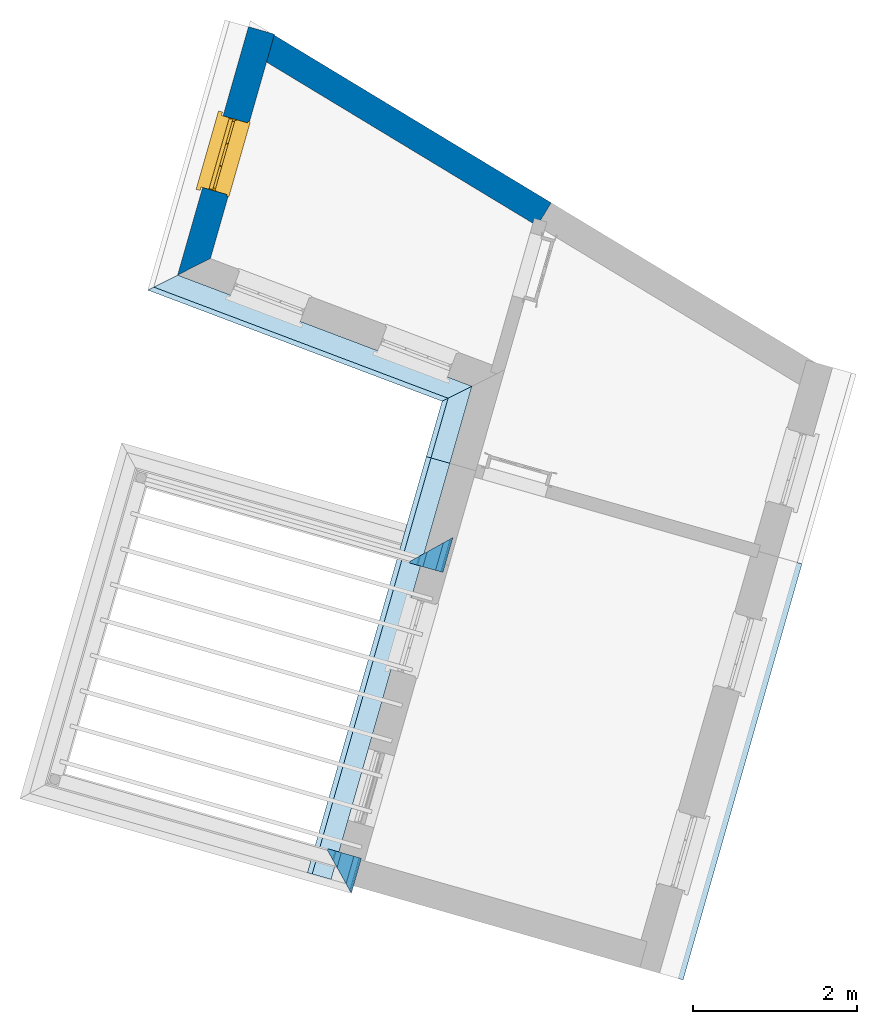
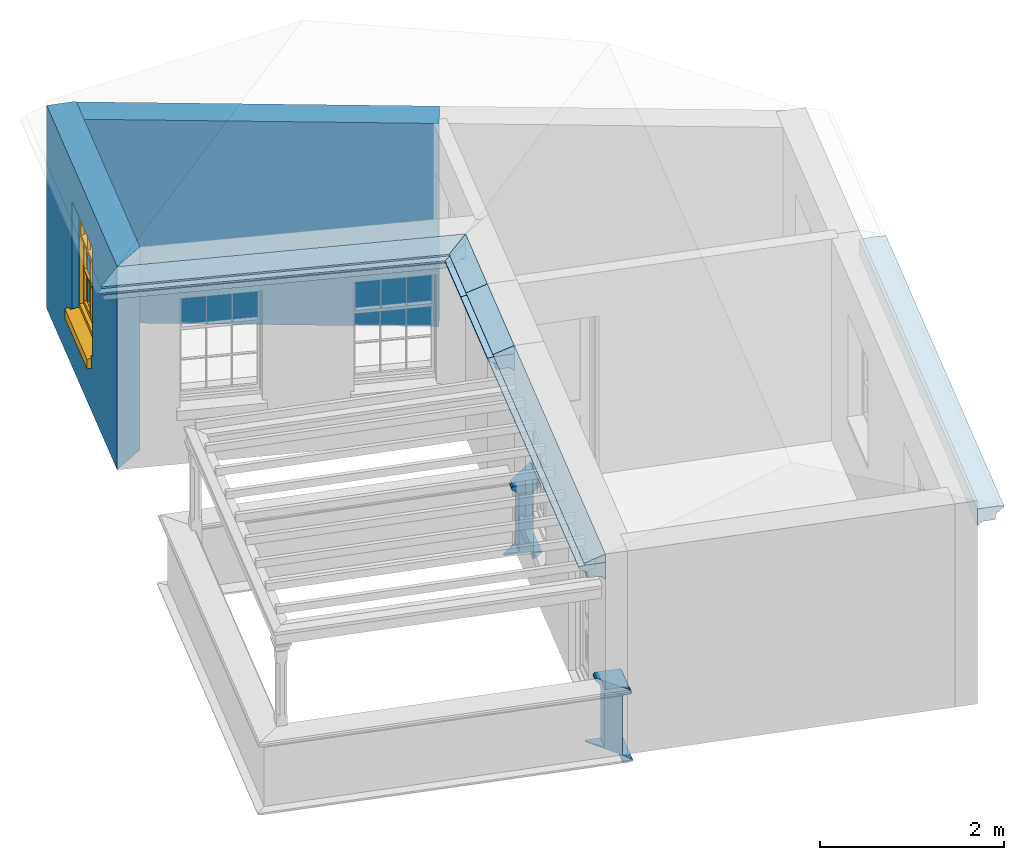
# One storey, part 4 of 5: 9 roofs, 8 walls, 1 window, 1 opening.
"""IFC4 building model written with IfcOpenShell, lengths in metres."""

import ifcopenshell
import ifcopenshell.guid

model = None  # the IFC model being written
_history = None  # IfcOwnerHistory: only IFC2X3 demands one
_inside = {}  # id of a spatial element -> (the spatial element, [elements in it])
_under = {}  # id of a project, library or spatial element -> (it, [spatial elements below it])
_declared = {}  # id of a project -> (the project, [libraries it declares])
_typed = {}  # id of a type object -> (the type object, [elements of that type])
_made_of = {}  # id of a material, layer set ... -> (it, [elements and type objects made of it])


def new_model(schema):
    """Start an empty IFC model of exactly this schema.

    Asked for "IFC4X3", IfcOpenShell would pick the latest addendum, in which some entities
    have other attributes; the version numbers below select the first issue.
    IFC2X3 requires an IfcOwnerHistory on every rooted entity: one is made here for all.
    """
    global model, _history
    if schema == "IFC4X3":
        model = ifcopenshell.file(schema_version=(4, 3, 0, 0))
    else:
        model = ifcopenshell.file(schema=schema)
    _inside.clear()
    _under.clear()
    _declared.clear()
    _typed.clear()
    _made_of.clear()
    _history = None
    if model.schema == "IFC2X3":
        org = make("IfcOrganization", Name="unknown")
        user = make(
            "IfcPersonAndOrganization",
            ThePerson=make("IfcPerson", FamilyName="unknown"),
            TheOrganization=org,
        )
        app = make(
            "IfcApplication",
            ApplicationDeveloper=org,
            Version="unknown",
            ApplicationFullName="unknown",
            ApplicationIdentifier="unknown",
        )
        _history = make(
            "IfcOwnerHistory",
            OwningUser=user,
            OwningApplication=app,
            ChangeAction="ADDED",
            CreationDate=0,
        )
    return model


def make(cls, **values):
    """One entity of the class cls with the attributes given. An attribute that is None is left unset."""
    return model.create_entity(
        cls, **{name: value for name, value in values.items() if value is not None}
    )


def rooted(cls, **values):
    """An entity with a GlobalId (a new one), such as an element, a storey or a relation."""
    return make(cls, GlobalId=ifcopenshell.guid.new(), OwnerHistory=_history, **values)


def si_unit(unit_type, name, prefix=None):
    """IfcSIUnit, for example si_unit("LENGTHUNIT", "METRE", prefix="MILLI")."""
    return make("IfcSIUnit", UnitType=unit_type, Prefix=prefix, Name=name)


def assignment(units):
    """IfcUnitAssignment: the units of a project."""
    return None if units is None else make("IfcUnitAssignment", Units=units)


def point(xyz):
    """IfcCartesianPoint."""
    return None if xyz is None else make("IfcCartesianPoint", Coordinates=xyz)


def direction(xyz):
    """IfcDirection."""
    return None if xyz is None else make("IfcDirection", DirectionRatios=xyz)


def frame(location, z_axis=None, x_axis=None):
    """IfcAxis2Placement3D, a coordinate frame: its origin and axes. An axis left out is left unset."""
    return make(
        "IfcAxis2Placement3D",
        Location=point(location),
        Axis=direction(z_axis),
        RefDirection=direction(x_axis),
    )


def origin():
    """The frame at (0, 0, 0) with its axes left unset."""
    return frame((0.0, 0.0, 0.0))


def origin_with_axes():
    """The frame at (0, 0, 0) with the z axis (0, 0, 1) and the x axis (1, 0, 0) written out."""
    return frame((0.0, 0.0, 0.0), z_axis=(0.0, 0.0, 1.0), x_axis=(1.0, 0.0, 0.0))


def place(relative_to, where):
    """IfcLocalPlacement: puts the frame where relative to a parent placement (None: the world)."""
    return make(
        "IfcLocalPlacement", PlacementRelTo=relative_to, RelativePlacement=where
    )


def context(
    kind, dimensions, precision=None, world=None, true_north=None, identifier=None
):
    """IfcGeometricRepresentationContext, for example the 3D "Model" context."""
    return make(
        "IfcGeometricRepresentationContext",
        ContextIdentifier=identifier,
        ContextType=kind,
        CoordinateSpaceDimension=dimensions,
        Precision=precision,
        WorldCoordinateSystem=world,
        TrueNorth=true_north,
    )


def subcontext(parent, identifier, kind, view, scale=None):
    """IfcGeometricRepresentationSubContext, for example "Body" below "Model"."""
    return make(
        "IfcGeometricRepresentationSubContext",
        ContextIdentifier=identifier,
        ContextType=kind,
        ParentContext=parent,
        TargetScale=scale,
        TargetView=view,
    )


def project(units=None, contexts=None):
    """IfcProject with its units and contexts."""
    return rooted(
        "IfcProject",
        Name="project",
        RepresentationContexts=contexts,
        UnitsInContext=assignment(units),
    )


def spatial(cls, under=None, at=None, **own):
    """A site, building, storey or space (cls), placed at a placement, below another one or the project."""
    s = rooted(cls, ObjectPlacement=at, **own)
    if under is not None:
        _under.setdefault(under.id(), (under, []))[1].append(s)
    return s


def polyline(points):
    """IfcPolyline through the points."""
    return make("IfcPolyline", Points=[point(p) for p in points])


def outline(outer, holes=None, kind="AREA"):
    """IfcArbitraryClosedProfileDef: a profile drawn as a closed curve; with holes, ...WithVoids."""
    if holes is None:
        return make("IfcArbitraryClosedProfileDef", ProfileType=kind, OuterCurve=outer)
    return make(
        "IfcArbitraryProfileDefWithVoids",
        ProfileType=kind,
        OuterCurve=outer,
        InnerCurves=holes,
    )


def extrude(swept, where, along, depth):
    """IfcExtrudedAreaSolid: the profile swept, set in the frame where, extruded along a direction by depth."""
    return make(
        "IfcExtrudedAreaSolid",
        SweptArea=swept,
        Position=where,
        ExtrudedDirection=direction(along),
        Depth=depth,
    )


def clip(a, b, op="DIFFERENCE"):
    """IfcBooleanClippingResult: the solid a cut by the half space b."""
    return make(
        "IfcBooleanClippingResult", Operator=op, FirstOperand=a, SecondOperand=b
    )


def halfspace(plane, agree):
    """IfcHalfSpaceSolid: all space on one side of the plane z = 0 of the frame plane."""
    return make(
        "IfcHalfSpaceSolid",
        BaseSurface=make("IfcPlane", Position=plane),
        AgreementFlag=agree,
    )


def faces_of(points, faces, orient=None, outer=None):
    """IfcFace entities. A face is a list of loops; a loop is a list of indices into points, from 0.

    orient and outer hold one flag for each loop. By default every Orientation is true, the
    first loop of a face is its IfcFaceOuterBound and the others are IfcFaceBound.
    """
    made = []
    for i, loops in enumerate(faces):
        bounds = []
        for j, loop in enumerate(loops):
            is_outer = j == 0 if outer is None else outer[i][j]
            bounds.append(
                make(
                    "IfcFaceOuterBound" if is_outer else "IfcFaceBound",
                    Bound=make("IfcPolyLoop", Polygon=[points[k] for k in loop]),
                    Orientation=True if orient is None else orient[i][j],
                )
            )
        made.append(make("IfcFace", Bounds=bounds))
    return made


def faceted_brep(points, faces, orient=None, outer=None, voids=None):
    """IfcFacetedBrep: a solid bounded by flat faces; with voids (closed shells), ...WithVoids."""
    shared = [point(p) for p in points]
    hull = make("IfcClosedShell", CfsFaces=faces_of(shared, faces, orient, outer))
    if voids is None:
        return make("IfcFacetedBrep", Outer=hull)
    return make(
        "IfcFacetedBrepWithVoids",
        Outer=hull,
        Voids=[
            make(cls, CfsFaces=faces_of(shared, fs, o, b)) for cls, fs, o, b in voids
        ],
    )


def shape(context_of_items, identifier, shape_type, items):
    """IfcShapeRepresentation: the items that make up one representation, for example the "Body"."""
    return make(
        "IfcShapeRepresentation",
        ContextOfItems=context_of_items,
        RepresentationIdentifier=identifier,
        RepresentationType=shape_type,
        Items=items,
    )


def source(mapping_origin, context_of_items, identifier, shape_type, items):
    """IfcRepresentationMap: a shape defined once, which mapped items show again and again."""
    return make(
        "IfcRepresentationMap",
        MappingOrigin=mapping_origin,
        MappedRepresentation=shape(context_of_items, identifier, shape_type, items),
    )


def transform(
    local_origin,
    x_axis=None,
    y_axis=None,
    z_axis=None,
    scale=None,
    scale2=None,
    scale3=None,
    uniform=True,
):
    """IfcCartesianTransformationOperator3D, or its non-uniform kind. x_axis, y_axis, z_axis: its Axis1, 2, 3."""
    if uniform:
        return make(
            "IfcCartesianTransformationOperator3D",
            Axis1=direction(x_axis),
            Axis2=direction(y_axis),
            LocalOrigin=point(local_origin),
            Scale=scale,
            Axis3=direction(z_axis),
        )
    return make(
        "IfcCartesianTransformationOperator3DnonUniform",
        Axis1=direction(x_axis),
        Axis2=direction(y_axis),
        LocalOrigin=point(local_origin),
        Scale=scale,
        Axis3=direction(z_axis),
        Scale2=scale2,
        Scale3=scale3,
    )


def mapped(mapping_source, mapping_target):
    """IfcMappedItem: shows the shape of a source again, moved by a transform."""
    return make(
        "IfcMappedItem", MappingSource=mapping_source, MappingTarget=mapping_target
    )


def material(Name=None, Category=None):
    """IfcMaterial."""
    return make("IfcMaterial", Name=Name, Category=Category)


def layer(
    of_material, thickness, ventilated=None, Name=None, Category=None, Priority=None
):
    """IfcMaterialLayer: one layer of a wall or slab, of a material (None: an air gap)."""
    return make(
        "IfcMaterialLayer",
        Material=of_material,
        LayerThickness=thickness,
        IsVentilated=ventilated,
        Name=Name,
        Category=Category,
        Priority=Priority,
    )


def layer_set(layers, Name=None):
    """IfcMaterialLayerSet."""
    return make("IfcMaterialLayerSet", MaterialLayers=layers, LayerSetName=Name)


def layer_usage(for_layer_set, set_direction, sense, offset, extent=None):
    """IfcMaterialLayerSetUsage: how a layer set lies in its element."""
    return make(
        "IfcMaterialLayerSetUsage",
        ForLayerSet=for_layer_set,
        LayerSetDirection=set_direction,
        DirectionSense=sense,
        OffsetFromReferenceLine=offset,
        ReferenceExtent=extent,
    )


def material_profile(
    of_material, cross_section, Name=None, Category=None, Priority=None
):
    """IfcMaterialProfile: a cross section and its material."""
    return make(
        "IfcMaterialProfile",
        Name=Name,
        Material=of_material,
        Profile=cross_section,
        Priority=Priority,
        Category=Category,
    )


def profile_set(profiles, Name=None, composite=None):
    """IfcMaterialProfileSet."""
    return make(
        "IfcMaterialProfileSet",
        Name=Name,
        MaterialProfiles=profiles,
        CompositeProfile=composite,
    )


def profile_usage(for_profile_set, cardinal=None, extent=None):
    """IfcMaterialProfileSetUsage: how a profile set lies along its element."""
    return make(
        "IfcMaterialProfileSetUsage",
        ForProfileSet=for_profile_set,
        CardinalPoint=cardinal,
        ReferenceExtent=extent,
    )


def made_of(thing, what):
    """Note that an element or type object is made of a material, layer set ...; save() writes the relation."""
    if what is not None:
        _made_of.setdefault(what.id(), (what, []))[1].append(thing)
    return thing


def type_object(cls, material=None, **own):
    """A type object (cls), such as IfcWallType, which elements share."""
    return made_of(rooted(cls, **own), material)


def type_shapes(of_type, sources):
    """Give a type object the sources (RepresentationMaps) that its elements show as mapped items."""
    of_type.RepresentationMaps = sources


def element(
    cls,
    number,
    at=None,
    inside=None,
    cuts=None,
    type_object=None,
    material=None,
    context=None,
    identifier="Body",
    shape_type=None,
    held_by="IfcProductDefinitionShape",
    body=None,
    shapes=None,
    **own,
):
    """One element of the class cls, such as IfcWall. Its Tag is "e" and its number.

    at: its placement. inside: the storey or other place that contains it. cuts: it is an
    opening in that element (IfcRelVoidsElement). A single representation is given by context,
    identifier, shape_type and body (its items); several are given by shapes. held_by: the class
    of the entity that holds the representations. save() writes the other relations.
    """
    e = rooted(cls, Tag="e%d" % number, ObjectPlacement=at, **own)
    if body is not None:
        shapes = [shape(context, identifier, shape_type, body)]
    if shapes is not None:
        e.Representation = make(held_by, Representations=shapes)
    if inside is not None:
        _inside.setdefault(inside.id(), (inside, []))[1].append(e)
    if cuts is not None:
        rooted(
            "IfcRelVoidsElement", RelatingBuildingElement=cuts, RelatedOpeningElement=e
        )
    if type_object is not None:
        _typed.setdefault(type_object.id(), (type_object, []))[1].append(e)
    return made_of(e, material)


def fill(opening, filler):
    """IfcRelFillsElement: the door or window that sits in an opening."""
    return rooted(
        "IfcRelFillsElement",
        RelatingOpeningElement=opening,
        RelatedBuildingElement=filler,
    )


def aggregate(whole, parts):
    """IfcRelAggregates: a whole, such as a stair, and the parts it consists of."""
    return rooted("IfcRelAggregates", RelatingObject=whole, RelatedObjects=parts)


def save(model, path):
    """Write the relations noted so far, then the file.

    IfcRelAggregates (storeys below a building ...), IfcRelContainedInSpatialStructure (elements
    in a storey), IfcRelDefinesByType, IfcRelAssociatesMaterial and IfcRelDeclares: one each for
    every whole, place, type object, material and project.
    """
    for whole, parts in _under.values():
        aggregate(whole, parts)
    for where, things in _inside.values():
        rooted(
            "IfcRelContainedInSpatialStructure",
            RelatedElements=things,
            RelatingStructure=where,
        )
    for kind, things in _typed.values():
        rooted("IfcRelDefinesByType", RelatedObjects=things, RelatingType=kind)
    for what, things in _made_of.values():
        rooted("IfcRelAssociatesMaterial", RelatedObjects=things, RelatingMaterial=what)
    for by, libraries in _declared.values():
        rooted("IfcRelDeclares", RelatingContext=by, RelatedDefinitions=libraries)
    model.write(path)


model = new_model("IFC4")

# Units and contexts
model_context = context("Model", 3, world=origin_with_axes())
body_context = subcontext(model_context, "Body", "Model", "MODEL_VIEW")
ifc_project = project(units=[si_unit("PLANEANGLEUNIT", "RADIAN"), si_unit("MASSUNIT", "GRAM", prefix="KILO"), si_unit("FORCEUNIT", "NEWTON", prefix="KILO"), si_unit("LENGTHUNIT", "METRE"), si_unit("AREAUNIT", "SQUARE_METRE"), si_unit("VOLUMEUNIT", "CUBIC_METRE")], contexts=[model_context, model_context])

# Sites, building, storey
site_1_placement = place(None, origin_with_axes())
site_1 = spatial("IfcSite", under=ifc_project, at=site_1_placement, Name="Tamar")
site_2_placement = place(site_1_placement, origin_with_axes())
site_2 = spatial("IfcSite", under=site_1, at=site_2_placement, Name="Site plot-19", CompositionType="ELEMENT")
building_placement = place(None, origin_with_axes())
building = spatial("IfcBuilding", under=site_2, at=building_placement, Name="Building plot-19", CompositionType="ELEMENT")
storey_placement = place(None, frame((0.0, 0.0, 30.4), z_axis=(0.0, 0.0, 1.0), x_axis=(1.0, 0.0, 0.0)))
storey = spatial("IfcBuildingStorey", under=building, at=storey_placement, Name="plot-19 1", CompositionType="ELEMENT", Elevation=30.4)

# Wall, opening, window
ifc_material_1 = material(Name="Masonry")
ifc_layer_1 = layer(ifc_material_1, 0.33, ventilated=False)
ifc_layer_set_1 = layer_set([ifc_layer_1], Name="exterior_0.08_0.25")
ifc_layer_usage_1 = layer_usage(ifc_layer_set_1, "AXIS2", "POSITIVE", -0.25)
wall_type_1 = type_object("IfcWallType", Name="exterior_0.08_0.25", PredefinedType="SOLIDWALL", material=ifc_layer_set_1)
wall_1_placement = place(storey_placement, frame((277.859330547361, 304.293593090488, 0.0), z_axis=(0.0, 0.0, 1.0), x_axis=(-0.274568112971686, -0.961567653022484, 0.0)))
wall_1 = element("IfcWall", 1, at=wall_1_placement, inside=storey, type_object=wall_type_1, material=ifc_layer_usage_1, Name="exterior", context=body_context, shape_type="SweptSolid", body=[
    extrude(outline(polyline([(-0.250000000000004, 0.0800000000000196), (-0.250000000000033, -0.249999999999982), (2.90406543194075, -0.250000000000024), (2.60035790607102, 0.080000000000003), (-0.250000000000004, 0.0800000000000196)])), origin_with_axes(), (0.0, 0.0, 1.0), 2.7),
])
opening_placement = place(wall_1_placement, frame((0.8819919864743, 0.0, 0.75)))
opening = element("IfcOpeningElement", 2, at=opening_placement, cuts=wall_1, Name="My Opening", ObjectType="Opening", context=body_context, shape_type="SweptSolid", body=[
    extrude(outline(polyline([(0.0, -0.269999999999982), (0.91000000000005, -0.269999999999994), (0.910000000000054, 1.09999999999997), (3.66373598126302e-15, 1.09999999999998), (0.0, -0.269999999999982)])), origin_with_axes(), (0.0, 0.0, 1.0), 1.445),
])
window_type = type_object("IfcWindowType", Name="sash_shorter", PartitioningType="DOUBLE_PANEL_HORIZONTAL", PredefinedType="NOTDEFINED")
shared_shape = source(origin(), body_context, "Body", "Brep", [
    faceted_brep([(0.876875, 0.145, 0.999097), (0.876875, 0.145, 1.411875), (0.9, 0.145, 1.435), (0.033125, 0.145, 1.411875), (0.033125, 0.145, 0.999097), (0.01, 0.145, 1.435), (0.033125, 0.115, 1.411875), (0.01, 0.115, 1.435), (0.033125, 0.115, 0.999097), (0.876875, 0.115, 1.411875), (0.876875, 0.115, 0.999097), (0.9, 0.115, 1.435), (0.033125, 0.145, 0.960972), (0.01, 0.145, 0.960972), (0.033125, 0.145, 0.548195), (0.876875, 0.145, 0.960972), (0.876875, 0.145, 0.548195), (0.9, 0.145, 0.960972), (0.876875, 0.145, 0.538195), (0.876875, 0.145, 0.125417), (0.9, 0.145, 0.077167), (0.033125, 0.145, 0.125417), (0.033125, 0.145, 0.538195), (0.01, 0.145, 0.077167), (0.9, 0.115, 0.960972), (0.01, 0.115, 0.960972), (-0.0425, 0.0, 0.01), (-0.0425, -0.05, 0.001667), (0.0, 0.0, 0.01), (0.9525, 0.0, 0.01), (0.91, 0.0, 0.01), (0.9525, -0.05, 0.001667), (-0.02, 0.33, 0.077167), (0.0, 0.33, 0.077167), (-0.02, 0.36, 0.077167), (0.0, 0.19, 0.077167), (0.01, 0.19, 0.077167), (0.91, 0.19, 0.077167), (0.91, 0.33, 0.077167), (0.9, 0.19, 0.077167), (0.93, 0.33, 0.077167), (0.93, 0.36, 0.077167), (0.01, 0.145, 0.999097), (0.01, 0.175, 0.999097), (0.9, 0.145, 0.999097), (0.9, 0.175, 0.999097), (0.876875, 0.175, 0.125417), (0.876875, 0.175, 0.538195), (0.9, 0.175, 0.077167), (0.876875, 0.175, 0.548195), (0.876875, 0.175, 0.960972), (0.033125, 0.175, 0.125417), (0.01, 0.175, 0.077167), (0.033125, 0.175, 0.538195), (0.033125, 0.175, 0.960972), (0.033125, 0.175, 0.548195), (-0.02, 0.33, 0.052167), (-0.02, 0.36, 0.052167), (0.93, 0.36, 0.052167), (0.93, 0.33, 0.052167), (0.91, 0.33, 0.052167), (0.0, 0.33, 0.052167), (0.91, 0.1, 0.026667), (0.0, 0.1, 0.026667), (-0.0425, -0.05, -0.123333), (0.9525, -0.05, -0.123333), (-0.0425, 0.0, -0.123333), (0.9525, 0.0, -0.123333), (0.01, 0.19, 1.435), (0.9, 0.19, 1.435), (0.0, 0.19, 1.445), (0.91, 0.19, 1.445), (0.01, 0.1, 0.077167), (0.9, 0.1, 0.077167), (0.592292, 0.145, 0.125417), (0.592292, 0.175, 0.125417), (0.317708, 0.175, 0.125417), (0.317708, 0.145, 0.125417), (0.592292, 0.145, 0.548195), (0.317708, 0.145, 0.548195), (0.317708, 0.145, 0.538195), (0.592292, 0.145, 0.538195), (0.592292, 0.175, 0.548195), (0.317708, 0.175, 0.548195), (0.602292, 0.175, 0.548195), (0.602292, 0.145, 0.548195), (0.317708, 0.175, 0.538195), (0.307708, 0.175, 0.125417), (0.307708, 0.175, 0.538195), (0.602292, 0.175, 0.538195), (0.602292, 0.175, 0.125417), (0.592292, 0.175, 0.538195), (0.307708, 0.175, 0.548195), (0.317708, 0.175, 0.960972), (0.307708, 0.175, 0.960972), (0.602292, 0.175, 0.960972), (0.592292, 0.175, 0.960972), (0.307708, 0.145, 0.538195), (0.307708, 0.145, 0.125417), (0.307708, 0.145, 0.548195), (0.307708, 0.145, 0.960972), (0.592292, 0.145, 0.960972), (0.317708, 0.145, 0.960972), (0.602292, 0.145, 0.960972), (0.602292, 0.145, 0.538195), (0.602292, 0.145, 0.125417), (0.317708, 0.115, 1.411875), (0.307708, 0.115, 1.411875), (0.307708, 0.115, 0.999097), (0.317708, 0.115, 0.999097), (0.602292, 0.115, 1.411875), (0.592292, 0.115, 1.411875), (0.592292, 0.115, 0.999097), (0.602292, 0.115, 0.999097), (0.317708, 0.145, 0.999097), (0.307708, 0.145, 0.999097), (0.307708, 0.145, 1.411875), (0.317708, 0.145, 1.411875), (0.602292, 0.145, 0.999097), (0.592292, 0.145, 0.999097), (0.592292, 0.145, 1.411875), (0.602292, 0.145, 1.411875), (0.91, 0.1, 1.445), (0.9, 0.1, 1.435), (0.01, 0.1, 1.435), (0.0, 0.1, 1.445), (0.91, 0.0, 0.0), (0.0, 0.0, 0.0), (0.91, 0.33, 0.0), (0.0, 0.33, 0.0)], [[[0, 1, 2]], [[3, 4, 5]], [[6, 7, 8]], [[9, 10, 11]], [[12, 13, 14]], [[15, 16, 17]], [[18, 19, 20]], [[21, 22, 23]], [[24, 15, 17]], [[13, 12, 25]], [[26, 27, 28]], [[29, 30, 31]], [[32, 33, 34]], [[35, 36, 33]], [[37, 38, 39]], [[40, 41, 38]], [[42, 4, 43]], [[44, 45, 0]], [[46, 47, 48]], [[49, 50, 45]], [[51, 52, 53]], [[54, 55, 43]], [[38, 33, 36, 39]], [[41, 34, 33, 38]], [[56, 32, 34, 57]], [[57, 34, 41, 58]], [[58, 41, 40, 59]], [[57, 58, 60, 61]], [[52, 48, 39, 36]], [[62, 63, 28, 30]], [[27, 31, 30, 28]], [[27, 64, 65, 31]], [[66, 67, 65, 64]], [[2, 5, 68, 69]], [[68, 70, 71, 69]], [[20, 23, 72, 73]], [[73, 72, 63, 62]], [[74, 75, 76, 77]], [[78, 79, 80, 81]], [[78, 82, 83, 79]], [[16, 49, 84, 85]], [[86, 76, 87, 88]], [[89, 90, 75, 91]], [[92, 88, 53, 55]], [[82, 91, 86, 83]], [[93, 83, 92, 94]], [[95, 84, 82, 96]], [[89, 84, 49, 47]], [[97, 88, 87, 98]], [[22, 53, 88, 97]], [[81, 91, 75, 74]], [[80, 86, 91, 81]], [[77, 76, 86, 80]], [[99, 92, 55, 14]], [[100, 94, 92, 99]], [[101, 96, 82, 78]], [[79, 83, 93, 102]], [[85, 84, 95, 103]], [[104, 89, 47, 18]], [[105, 90, 89, 104]], [[104, 18, 16, 85]], [[80, 97, 98, 77]], [[104, 81, 74, 105]], [[103, 101, 78, 85]], [[99, 14, 22, 97]], [[102, 100, 99, 79]], [[106, 107, 108, 109]], [[110, 111, 112, 113]], [[114, 115, 116, 117]], [[118, 119, 120, 121]], [[107, 116, 115, 108]], [[111, 120, 119, 112]], [[109, 114, 117, 106]], [[113, 118, 121, 110]], [[85, 78, 81, 104]], [[84, 89, 91, 82]], [[83, 86, 88, 92]], [[79, 99, 97, 80]], [[109, 112, 119, 114]], [[102, 93, 96, 101]], [[106, 117, 120, 111]], [[98, 87, 51, 21]], [[6, 3, 116, 107]], [[110, 121, 1, 9]], [[19, 46, 90, 105]], [[26, 66, 64, 27]], [[29, 31, 65, 67]], [[25, 24, 112, 109]], [[11, 7, 106, 111]], [[75, 48, 52, 76]], [[43, 45, 96, 93]], [[45, 43, 114, 119]], [[5, 2, 120, 117]], [[24, 25, 102, 101]], [[42, 5, 4]], [[2, 44, 0]], [[49, 45, 48, 47]], [[52, 43, 55, 53]], [[14, 13, 23, 22]], [[20, 17, 16, 18]], [[24, 11, 10]], [[25, 8, 7]], [[8, 4, 3, 6]], [[9, 1, 0, 10]], [[15, 50, 49, 16]], [[18, 47, 46, 19]], [[21, 51, 53, 22]], [[14, 55, 54, 12]], [[44, 2, 69, 45]], [[68, 5, 42, 43]], [[36, 35, 70, 68]], [[39, 69, 71, 37]], [[62, 122, 123, 73]], [[63, 72, 124, 125]], [[8, 108, 115, 4]], [[113, 10, 0, 118]], [[94, 100, 12, 54]], [[17, 20, 73, 24]], [[72, 23, 13, 25]], [[52, 36, 68, 43]], [[69, 39, 48, 45]], [[11, 24, 73, 123]], [[7, 124, 72, 25]], [[23, 77, 98]], [[98, 21, 23]], [[105, 74, 20]], [[20, 19, 105]], [[20, 74, 77, 23]], [[113, 112, 24]], [[24, 10, 113]], [[25, 109, 108]], [[108, 8, 25]], [[110, 9, 11]], [[11, 111, 110]], [[7, 6, 107]], [[107, 106, 7]], [[5, 117, 116]], [[116, 3, 5]], [[121, 120, 2]], [[2, 1, 121]], [[11, 123, 124, 7]], [[122, 125, 124, 123]], [[43, 93, 94]], [[94, 54, 43]], [[96, 45, 95]], [[50, 95, 45]], [[15, 103, 95, 50]], [[48, 75, 90]], [[90, 46, 48]], [[87, 76, 52]], [[52, 51, 87]], [[103, 15, 24]], [[24, 101, 103]], [[100, 102, 25]], [[25, 12, 100]], [[115, 114, 43]], [[43, 4, 115]], [[118, 0, 45]], [[45, 119, 118]], [[71, 70, 125, 122]], [[70, 35, 63, 125]], [[122, 62, 37, 71]], [[126, 67, 66, 127]], [[60, 58, 59]], [[38, 60, 59, 40]], [[61, 56, 57]], [[32, 56, 61, 33]], [[61, 60, 128, 129]], [[62, 60, 38, 37]], [[126, 128, 60, 62]], [[33, 61, 63, 35]], [[61, 129, 127, 63]], [[128, 126, 127, 129]], [[28, 127, 66, 26]], [[63, 127, 28]], [[29, 67, 126, 30]], [[30, 126, 62]]]),
])
type_shapes(window_type, [shared_shape])
window_placement = place(storey_placement, frame((277.357540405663, 303.519631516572, 0.75), z_axis=(0.0, 0.0, 1.0), x_axis=(-0.24985698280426, -0.875026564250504, 0.0)))
window = element("IfcWindow", 3, at=window_placement, inside=storey, type_object=window_type, Name="bedroom outside window", OverallHeight=1.445, OverallWidth=0.91, context=body_context, shape_type="MappedRepresentation", body=[
    mapped(shared_shape, transform((0.0, 0.0, 0.0), scale=1.0)),
])
fill(opening, window)

# Walls
ifc_material_2 = material(Name="Masonry")
ifc_layer_2 = layer(ifc_material_2, 0.33, ventilated=False)
ifc_layer_set_2 = layer_set([ifc_layer_2], Name="party_0.08_0.25")
ifc_layer_usage_2 = layer_usage(ifc_layer_set_2, "AXIS2", "POSITIVE", -0.25)
wall_type_2 = type_object("IfcWallType", Name="party_0.08_0.25", PredefinedType="SOLIDWALL", material=ifc_layer_set_2)
wall_2_placement = place(storey_placement, frame((281.254501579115, 302.239224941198, 0.0), z_axis=(0.0, 0.0, 1.0), x_axis=(-0.855567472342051, 0.517691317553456, 0.0)))
element("IfcWall", 4, at=wall_2_placement, inside=storey, type_object=wall_type_2, material=ifc_layer_usage_2, Name="party", context=body_context, shape_type="SweptSolid", body=[
    extrude(outline(polyline([(-5.71497043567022e-15, 0.0799999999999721), (-9.92118798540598e-15, -0.250000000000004), (3.96832645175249, -0.250000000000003), (3.9683264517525, 0.0799999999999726), (-5.71497043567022e-15, 0.0799999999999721)])), origin_with_axes(), (0.0, 0.0, 1.0), 2.7),
])
ifc_material_profile_1 = material_profile(None, outline(polyline([(0.25, 0.0), (0.25, 0.795), (0.09, 0.795), (0.09, 0.02), (-0.08, 0.02), (-0.08, 0.0), (0.25, 0.0)])))
ifc_profile_set_1 = profile_set([ifc_material_profile_1])
ifc_profile_usage_1 = profile_usage(ifc_profile_set_1)
wall_type_3 = type_object("IfcWallType", Name="parapet_0", PredefinedType="PARAPET", material=ifc_profile_set_1)
wall_3_placement = place(storey_placement, frame((280.033066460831, 299.090671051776, 0.0), z_axis=(-0.274568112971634, -0.961567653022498, 0.0), x_axis=(0.961567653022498, -0.274568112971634, 0.0)))
element("IfcWall", 5, at=wall_3_placement, inside=storey, type_object=wall_type_3, material=ifc_profile_usage_1, Name="parapet_0", context=body_context, shape_type="Clipping", body=[
    clip(clip(extrude(outline(polyline([(0.25, 0.0), (0.25, 0.795), (0.09, 0.795), (0.09, 0.02), (-0.08, 0.02), (-0.08, 0.0), (0.25, 0.0)])), origin_with_axes(), (0.0, 0.0, 1.0), 2.09999999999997), halfspace(frame((0.0, 0.0, 1.09999999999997), z_axis=(-7.83279351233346e-15, 0.0, -1.0), x_axis=(0.0, 1.0, 0.0)), True)), halfspace(frame((0.0, 0.0, 1.0), z_axis=(-0.707106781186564, 0.0, -0.707106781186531), x_axis=(0.0, 1.0, 0.0)), False)),
])
ifc_profile_usage_2 = profile_usage(ifc_profile_set_1)
wall_4_placement = place(storey_placement, frame((279.008832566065, 295.503691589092, 0.0), z_axis=(-0.274568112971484, -0.961567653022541, 0.0), x_axis=(0.961567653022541, -0.274568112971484, 0.0)))
element("IfcWall", 6, at=wall_4_placement, inside=storey, type_object=wall_type_3, material=ifc_profile_usage_2, Name="parapet_0", context=body_context, shape_type="Clipping", body=[
    clip(clip(extrude(outline(polyline([(0.25, 0.0), (0.25, 0.795), (0.09, 0.795), (0.09, 0.02), (-0.08, 0.02), (-0.08, 0.0), (0.25, 0.0)])), origin_with_axes(), (0.0, 0.0, 1.0), 2.10000000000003), halfspace(frame((0.0, 0.0, 1.10000000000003), z_axis=(0.707106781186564, 0.0, -0.707106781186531), x_axis=(0.0, 1.0, 0.0)), True)), halfspace(frame((0.0, 0.0, 1.0), z_axis=(2.34754957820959e-14, 0.0, -1.0), x_axis=(0.0, 1.0, 0.0)), False)),
])
ifc_material_profile_2 = material_profile(None, outline(polyline([(0.265, 0.795), (0.268, 0.807), (0.274, 0.816), (0.283, 0.822), (0.295, 0.825), (0.295, 0.84), (0.305, 0.84), (0.317, 0.842), (0.326, 0.849), (0.333, 0.858), (0.335, 0.87), (0.333, 0.882), (0.326, 0.891), (0.317, 0.898), (0.305, 0.9), (0.035, 0.9), (0.023, 0.898), (0.014, 0.891), (0.007, 0.882), (0.005, 0.87), (0.007, 0.858), (0.014, 0.849), (0.023, 0.842), (0.035, 0.84), (0.045, 0.84), (0.045, 0.825), (0.057, 0.822), (0.066, 0.816), (0.072, 0.807), (0.075, 0.795), (0.265, 0.795)])))
ifc_profile_set_2 = profile_set([ifc_material_profile_2])
ifc_profile_usage_3 = profile_usage(ifc_profile_set_2)
wall_type_4 = type_object("IfcWallType", Name="parapet_1", PredefinedType="PARAPET", material=ifc_profile_set_2)
wall_5_placement = place(storey_placement, frame((280.033066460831, 299.090671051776, 0.0), z_axis=(-0.274568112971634, -0.961567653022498, 0.0), x_axis=(0.961567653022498, -0.274568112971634, 0.0)))
element("IfcWall", 7, at=wall_5_placement, inside=storey, type_object=wall_type_4, material=ifc_profile_usage_3, Name="parapet_1", context=body_context, shape_type="Clipping", body=[
    clip(clip(extrude(outline(polyline([(0.265, 0.795), (0.268, 0.807), (0.274, 0.816), (0.283, 0.822), (0.295, 0.825), (0.295, 0.84), (0.305, 0.84), (0.317, 0.842), (0.326, 0.849), (0.333, 0.858), (0.335, 0.87), (0.333, 0.882), (0.326, 0.891), (0.317, 0.898), (0.305, 0.9), (0.035, 0.9), (0.023, 0.898), (0.014, 0.891), (0.007, 0.882), (0.005, 0.87), (0.007, 0.858), (0.014, 0.849), (0.023, 0.842), (0.035, 0.84), (0.045, 0.84), (0.045, 0.825), (0.057, 0.822), (0.066, 0.816), (0.072, 0.807), (0.075, 0.795), (0.265, 0.795)])), origin_with_axes(), (0.0, 0.0, 1.0), 2.09999999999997), halfspace(frame((0.0, 0.0, 1.09999999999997), z_axis=(-7.83279351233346e-15, 0.0, -1.0), x_axis=(0.0, 1.0, 0.0)), True)), halfspace(frame((0.0, 0.0, 1.0), z_axis=(-0.707106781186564, 0.0, -0.707106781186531), x_axis=(0.0, 1.0, 0.0)), False)),
])
ifc_profile_usage_4 = profile_usage(ifc_profile_set_2)
wall_6_placement = place(storey_placement, frame((279.008832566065, 295.503691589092, 0.0), z_axis=(-0.274568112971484, -0.961567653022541, 0.0), x_axis=(0.961567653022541, -0.274568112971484, 0.0)))
element("IfcWall", 8, at=wall_6_placement, inside=storey, type_object=wall_type_4, material=ifc_profile_usage_4, Name="parapet_1", context=body_context, shape_type="Clipping", body=[
    clip(clip(extrude(outline(polyline([(0.265, 0.795), (0.268, 0.807), (0.274, 0.816), (0.283, 0.822), (0.295, 0.825), (0.295, 0.84), (0.305, 0.84), (0.317, 0.842), (0.326, 0.849), (0.333, 0.858), (0.335, 0.87), (0.333, 0.882), (0.326, 0.891), (0.317, 0.898), (0.305, 0.9), (0.035, 0.9), (0.023, 0.898), (0.014, 0.891), (0.007, 0.882), (0.005, 0.87), (0.007, 0.858), (0.014, 0.849), (0.023, 0.842), (0.035, 0.84), (0.045, 0.84), (0.045, 0.825), (0.057, 0.822), (0.066, 0.816), (0.072, 0.807), (0.075, 0.795), (0.265, 0.795)])), origin_with_axes(), (0.0, 0.0, 1.0), 2.10000000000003), halfspace(frame((0.0, 0.0, 1.10000000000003), z_axis=(0.707106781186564, 0.0, -0.707106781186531), x_axis=(0.0, 1.0, 0.0)), True)), halfspace(frame((0.0, 0.0, 1.0), z_axis=(2.34754957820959e-14, 0.0, -1.0), x_axis=(0.0, 1.0, 0.0)), False)),
])
ifc_material_profile_3 = material_profile(None, outline(polyline([(0.25, -0.1), (0.265, -0.1), (0.265, -0.085), (0.278, -0.084), (0.289, -0.081), (0.301, -0.074), (0.309, -0.065), (0.315, -0.055), (0.324, -0.044), (0.334, -0.038), (0.345, -0.035), (0.345, -0.015), (0.25, 0.0), (0.25, -0.1)])))
ifc_profile_set_3 = profile_set([ifc_material_profile_3])
ifc_profile_usage_5 = profile_usage(ifc_profile_set_3)
wall_type_5 = type_object("IfcWallType", Name="parapet_2", PredefinedType="PARAPET", material=ifc_profile_set_3)
wall_7_placement = place(storey_placement, frame((280.033066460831, 299.090671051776, 0.0), z_axis=(-0.274568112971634, -0.961567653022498, 0.0), x_axis=(0.961567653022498, -0.274568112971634, 0.0)))
element("IfcWall", 9, at=wall_7_placement, inside=storey, type_object=wall_type_5, material=ifc_profile_usage_5, Name="parapet_2", context=body_context, shape_type="Clipping", body=[
    clip(clip(extrude(outline(polyline([(0.25, -0.1), (0.265, -0.1), (0.265, -0.085), (0.278, -0.084), (0.289, -0.081), (0.301, -0.074), (0.309, -0.065), (0.315, -0.055), (0.324, -0.044), (0.334, -0.038), (0.345, -0.035), (0.345, -0.015), (0.25, 0.0), (0.25, -0.1)])), origin_with_axes(), (0.0, 0.0, 1.0), 2.09999999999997), halfspace(frame((0.0, 0.0, 1.09999999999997), z_axis=(-7.83279351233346e-15, 0.0, -1.0), x_axis=(0.0, 1.0, 0.0)), True)), halfspace(frame((0.0, 0.0, 1.0), z_axis=(-0.707106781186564, 0.0, -0.707106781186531), x_axis=(0.0, 1.0, 0.0)), False)),
])
ifc_profile_usage_6 = profile_usage(ifc_profile_set_3)
wall_8_placement = place(storey_placement, frame((279.008832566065, 295.503691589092, 0.0), z_axis=(-0.274568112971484, -0.961567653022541, 0.0), x_axis=(0.961567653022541, -0.274568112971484, 0.0)))
element("IfcWall", 10, at=wall_8_placement, inside=storey, type_object=wall_type_5, material=ifc_profile_usage_6, Name="parapet_2", context=body_context, shape_type="Clipping", body=[
    clip(clip(extrude(outline(polyline([(0.25, -0.1), (0.265, -0.1), (0.265, -0.085), (0.278, -0.084), (0.289, -0.081), (0.301, -0.074), (0.309, -0.065), (0.315, -0.055), (0.324, -0.044), (0.334, -0.038), (0.345, -0.035), (0.345, -0.015), (0.25, 0.0), (0.25, -0.1)])), origin_with_axes(), (0.0, 0.0, 1.0), 2.10000000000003), halfspace(frame((0.0, 0.0, 1.10000000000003), z_axis=(0.707106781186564, 0.0, -0.707106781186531), x_axis=(0.0, 1.0, 0.0)), True)), halfspace(frame((0.0, 0.0, 1.0), z_axis=(2.34754957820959e-14, 0.0, -1.0), x_axis=(0.0, 1.0, 0.0)), False)),
])

# Roofs
ifc_material_profile_4 = material_profile(None, outline(polyline([(0.25, -0.11), (0.25, -0.33), (0.265, -0.33), (0.268, -0.318), (0.274, -0.309), (0.283, -0.303), (0.295, -0.3), (0.295, -0.285), (0.455, -0.285), (0.455, -0.205), (0.47, -0.205), (0.47, -0.19), (0.483, -0.189), (0.494, -0.186), (0.506, -0.179), (0.514, -0.17), (0.52, -0.16), (0.529, -0.149), (0.539, -0.143), (0.55, -0.14), (0.55, -0.12), (0.48, -0.11), (0.25, -0.11)])))
ifc_profile_set_4 = profile_set([ifc_material_profile_4])
ifc_profile_usage_7 = profile_usage(ifc_profile_set_4)
roof_type_1 = type_object("IfcRoofType", Name="eaves_0", PredefinedType="FREEFORM", material=ifc_profile_set_4)
roof_1_placement = place(storey_placement, frame((281.654877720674, 300.011820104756, 2.7), z_axis=(-0.935518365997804, 0.353278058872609, 0.0), x_axis=(-0.353278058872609, -0.935518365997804, 0.0)))
element("IfcRoof", 11, at=roof_1_placement, inside=storey, type_object=roof_type_1, material=ifc_profile_usage_7, Name="eaves_0", context=body_context, shape_type="Clipping", body=[
    clip(clip(extrude(outline(polyline([(0.25, -0.11), (0.25, -0.33), (0.265, -0.33), (0.268, -0.318), (0.274, -0.309), (0.283, -0.303), (0.295, -0.3), (0.295, -0.285), (0.455, -0.285), (0.455, -0.205), (0.47, -0.205), (0.47, -0.19), (0.483, -0.189), (0.494, -0.186), (0.506, -0.179), (0.514, -0.17), (0.52, -0.16), (0.529, -0.149), (0.539, -0.143), (0.55, -0.14), (0.55, -0.12), (0.48, -0.11), (0.25, -0.11)])), origin_with_axes(), (0.0, 0.0, 1.0), 5.84195508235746), halfspace(frame((0.0, 0.0, 4.84195508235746), z_axis=(0.677186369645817, 0.0, -0.735811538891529), x_axis=(0.0, 1.0, 0.0)), True)), halfspace(frame((0.0, 0.0, 1.0), z_axis=(0.677186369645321, 0.0, -0.735811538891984), x_axis=(0.0, 1.0, 0.0)), False)),
])
ifc_profile_usage_8 = profile_usage(ifc_profile_set_4)
roof_2_placement = place(storey_placement, frame((280.112743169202, 298.240661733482, 2.7), z_axis=(0.274568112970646, 0.961567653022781, 0.0), x_axis=(-0.961567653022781, 0.274568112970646, 0.0)))
element("IfcRoof", 12, at=roof_2_placement, inside=storey, type_object=roof_type_1, material=ifc_profile_usage_8, Name="eaves_0", context=body_context, shape_type="Clipping", body=[
    clip(clip(extrude(outline(polyline([(0.25, -0.11), (0.25, -0.33), (0.265, -0.33), (0.268, -0.318), (0.274, -0.309), (0.283, -0.303), (0.295, -0.3), (0.295, -0.285), (0.455, -0.285), (0.455, -0.205), (0.47, -0.205), (0.47, -0.19), (0.483, -0.189), (0.494, -0.186), (0.506, -0.179), (0.514, -0.17), (0.52, -0.16), (0.529, -0.149), (0.539, -0.143), (0.55, -0.14), (0.55, -0.12), (0.48, -0.11), (0.25, -0.11)])), origin_with_axes(), (0.0, 0.0, 1.0), 3.20934681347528), halfspace(frame((0.0, 0.0, 2.20934681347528), z_axis=(-0.677186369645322, 0.0, -0.735811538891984), x_axis=(0.0, 1.0, 0.0)), True)), halfspace(frame((0.0, 0.0, 1.0), z_axis=(1.32614439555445e-14, 0.0, -1.0), x_axis=(0.0, 1.0, 0.0)), False)),
])
ifc_profile_usage_9 = profile_usage(ifc_profile_set_4)
roof_3_placement = place(storey_placement, frame((279.782016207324, 297.08241963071, 2.7), z_axis=(0.274568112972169, 0.961567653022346, 0.0), x_axis=(-0.961567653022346, 0.274568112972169, 0.0)))
element("IfcRoof", 13, at=roof_3_placement, inside=storey, type_object=roof_type_1, material=ifc_profile_usage_9, Name="eaves_0", context=body_context, shape_type="Clipping", body=[
    clip(clip(extrude(outline(polyline([(0.25, -0.11), (0.25, -0.33), (0.265, -0.33), (0.268, -0.318), (0.274, -0.309), (0.283, -0.303), (0.295, -0.3), (0.295, -0.285), (0.455, -0.285), (0.455, -0.205), (0.47, -0.205), (0.47, -0.19), (0.483, -0.189), (0.494, -0.186), (0.506, -0.179), (0.514, -0.17), (0.52, -0.16), (0.529, -0.149), (0.539, -0.143), (0.55, -0.14), (0.55, -0.12), (0.48, -0.11), (0.25, -0.11)])), origin_with_axes(), (0.0, 0.0, 1.0), 3.20453521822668), halfspace(frame((0.0, 0.0, 2.20453521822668), z_axis=(-1.57124885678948e-12, 0.0, -1.0), x_axis=(0.0, 1.0, 0.0)), True)), halfspace(frame((0.0, 0.0, 1.0), z_axis=(1.32614439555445e-14, 0.0, -1.0), x_axis=(0.0, 1.0, 0.0)), False)),
])
ifc_profile_usage_10 = profile_usage(ifc_profile_set_4)
roof_4_placement = place(storey_placement, frame((278.661683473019, 293.158891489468, 2.7), z_axis=(0.274568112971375, 0.961567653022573, 0.0), x_axis=(-0.961567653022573, 0.274568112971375, 0.0)))
element("IfcRoof", 14, at=roof_4_placement, inside=storey, type_object=roof_type_1, material=ifc_profile_usage_10, Name="eaves_0", context=body_context, shape_type="Clipping", body=[
    clip(clip(extrude(outline(polyline([(0.25, -0.11), (0.25, -0.33), (0.265, -0.33), (0.268, -0.318), (0.274, -0.309), (0.283, -0.303), (0.295, -0.3), (0.295, -0.285), (0.455, -0.285), (0.455, -0.205), (0.47, -0.205), (0.47, -0.19), (0.483, -0.189), (0.494, -0.186), (0.506, -0.179), (0.514, -0.17), (0.52, -0.16), (0.529, -0.149), (0.539, -0.143), (0.55, -0.14), (0.55, -0.12), (0.48, -0.11), (0.25, -0.11)])), origin_with_axes(), (0.0, 0.0, 1.0), 6.08034539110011), halfspace(frame((0.0, 0.0, 5.08034539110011), z_axis=(8.39267374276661e-13, 0.0, -1.0), x_axis=(0.0, 1.0, 0.0)), True)), halfspace(frame((0.0, 0.0, 1.0), z_axis=(1.14850871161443e-14, 0.0, -1.0), x_axis=(0.0, 1.0, 0.0)), False)),
])
ifc_material_profile_5 = material_profile(None, outline(polyline([(0.25, -0.11), (0.48, -0.11), (0.49, -0.08), (0.25, 0.0), (0.25, -0.11)])))
ifc_profile_set_5 = profile_set([ifc_material_profile_5])
ifc_profile_usage_11 = profile_usage(ifc_profile_set_5)
roof_type_2 = type_object("IfcRoofType", Name="eaves_1", PredefinedType="FREEFORM", material=ifc_profile_set_5)
roof_5_placement = place(storey_placement, frame((281.654877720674, 300.011820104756, 2.7), z_axis=(-0.935518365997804, 0.353278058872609, 0.0), x_axis=(-0.353278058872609, -0.935518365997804, 0.0)))
element("IfcRoof", 15, at=roof_5_placement, inside=storey, type_object=roof_type_2, material=ifc_profile_usage_11, Name="eaves_1", context=body_context, shape_type="Clipping", body=[
    clip(clip(extrude(outline(polyline([(0.25, -0.11), (0.48, -0.11), (0.49, -0.08), (0.25, 0.0), (0.25, -0.11)])), origin_with_axes(), (0.0, 0.0, 1.0), 5.84195508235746), halfspace(frame((0.0, 0.0, 4.84195508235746), z_axis=(0.677186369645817, 0.0, -0.735811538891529), x_axis=(0.0, 1.0, 0.0)), True)), halfspace(frame((0.0, 0.0, 1.0), z_axis=(0.677186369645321, 0.0, -0.735811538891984), x_axis=(0.0, 1.0, 0.0)), False)),
])
ifc_profile_usage_12 = profile_usage(ifc_profile_set_5)
roof_6_placement = place(storey_placement, frame((280.112743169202, 298.240661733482, 2.7), z_axis=(0.274568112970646, 0.961567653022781, 0.0), x_axis=(-0.961567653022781, 0.274568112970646, 0.0)))
element("IfcRoof", 16, at=roof_6_placement, inside=storey, type_object=roof_type_2, material=ifc_profile_usage_12, Name="eaves_1", context=body_context, shape_type="Clipping", body=[
    clip(clip(extrude(outline(polyline([(0.25, -0.11), (0.48, -0.11), (0.49, -0.08), (0.25, 0.0), (0.25, -0.11)])), origin_with_axes(), (0.0, 0.0, 1.0), 3.20934681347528), halfspace(frame((0.0, 0.0, 2.20934681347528), z_axis=(-0.677186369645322, 0.0, -0.735811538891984), x_axis=(0.0, 1.0, 0.0)), True)), halfspace(frame((0.0, 0.0, 1.0), z_axis=(1.32614439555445e-14, 0.0, -1.0), x_axis=(0.0, 1.0, 0.0)), False)),
])
ifc_profile_usage_13 = profile_usage(ifc_profile_set_5)
roof_7_placement = place(storey_placement, frame((279.782016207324, 297.08241963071, 2.7), z_axis=(0.274568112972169, 0.961567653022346, 0.0), x_axis=(-0.961567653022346, 0.274568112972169, 0.0)))
element("IfcRoof", 17, at=roof_7_placement, inside=storey, type_object=roof_type_2, material=ifc_profile_usage_13, Name="eaves_1", context=body_context, shape_type="Clipping", body=[
    clip(clip(extrude(outline(polyline([(0.25, -0.11), (0.48, -0.11), (0.49, -0.08), (0.25, 0.0), (0.25, -0.11)])), origin_with_axes(), (0.0, 0.0, 1.0), 3.20453521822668), halfspace(frame((0.0, 0.0, 2.20453521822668), z_axis=(-1.57124885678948e-12, 0.0, -1.0), x_axis=(0.0, 1.0, 0.0)), True)), halfspace(frame((0.0, 0.0, 1.0), z_axis=(1.32614439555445e-14, 0.0, -1.0), x_axis=(0.0, 1.0, 0.0)), False)),
])
ifc_profile_usage_14 = profile_usage(ifc_profile_set_5)
roof_8_placement = place(storey_placement, frame((278.661683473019, 293.158891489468, 2.7), z_axis=(0.274568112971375, 0.961567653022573, 0.0), x_axis=(-0.961567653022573, 0.274568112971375, 0.0)))
element("IfcRoof", 18, at=roof_8_placement, inside=storey, type_object=roof_type_2, material=ifc_profile_usage_14, Name="eaves_1", context=body_context, shape_type="Clipping", body=[
    clip(clip(extrude(outline(polyline([(0.25, -0.11), (0.48, -0.11), (0.49, -0.08), (0.25, 0.0), (0.25, -0.11)])), origin_with_axes(), (0.0, 0.0, 1.0), 6.08034539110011), halfspace(frame((0.0, 0.0, 5.08034539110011), z_axis=(8.39267374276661e-13, 0.0, -1.0), x_axis=(0.0, 1.0, 0.0)), True)), halfspace(frame((0.0, 0.0, 1.0), z_axis=(1.14850871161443e-14, 0.0, -1.0), x_axis=(0.0, 1.0, 0.0)), False)),
])
ifc_material_profile_6 = material_profile(None, outline(polyline([(0.25, -0.11), (0.25, -0.33), (0.265, -0.33), (0.268, -0.318), (0.274, -0.309), (0.283, -0.303), (0.295, -0.3), (0.295, -0.285), (0.455, -0.285), (0.455, -0.205), (0.47, -0.205), (0.47, -0.19), (0.483, -0.189), (0.494, -0.186), (0.506, -0.179), (0.514, -0.17), (0.52, -0.16), (0.529, -0.149), (0.539, -0.143), (0.55, -0.14), (0.55, -0.12), (0.48, -0.11), (0.25, -0.11)])))
ifc_profile_set_6 = profile_set([ifc_material_profile_6])
ifc_profile_usage_15 = profile_usage(ifc_profile_set_6)
roof_type_3 = type_object("IfcRoofType", Name="eaves_0", PredefinedType="FREEFORM", material=ifc_profile_set_6)
roof_9_placement = place(storey_placement, frame((284.192034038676, 299.155789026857, 2.7), z_axis=(-0.274568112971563, -0.961567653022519, 0.0), x_axis=(0.961567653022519, -0.274568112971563, 0.0)))
element("IfcRoof", 19, at=roof_9_placement, inside=storey, type_object=roof_type_3, material=ifc_profile_usage_15, Name="eaves_0", context=body_context, shape_type="Clipping", body=[
    clip(clip(extrude(outline(polyline([(0.25, -0.11), (0.25, -0.33), (0.265, -0.33), (0.268, -0.318), (0.274, -0.309), (0.283, -0.303), (0.295, -0.3), (0.295, -0.285), (0.455, -0.285), (0.455, -0.205), (0.47, -0.205), (0.47, -0.19), (0.483, -0.189), (0.494, -0.186), (0.506, -0.179), (0.514, -0.17), (0.52, -0.16), (0.529, -0.149), (0.539, -0.143), (0.55, -0.14), (0.55, -0.12), (0.48, -0.11), (0.25, -0.11)])), origin_with_axes(), (0.0, 0.0, 1.0), 7.28488060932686), halfspace(frame((0.0, 0.0, 6.28488060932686), z_axis=(-4.50212443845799e-15, 0.0, -1.0), x_axis=(0.0, 1.0, 0.0)), True)), halfspace(frame((0.0, 0.0, 1.0), z_axis=(-4.50212443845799e-15, 0.0, -1.0), x_axis=(0.0, 1.0, 0.0)), False)),
])

save(model, "model.ifc")
